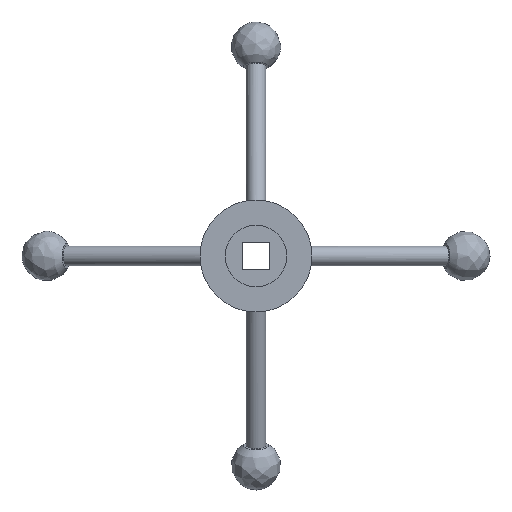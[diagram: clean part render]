
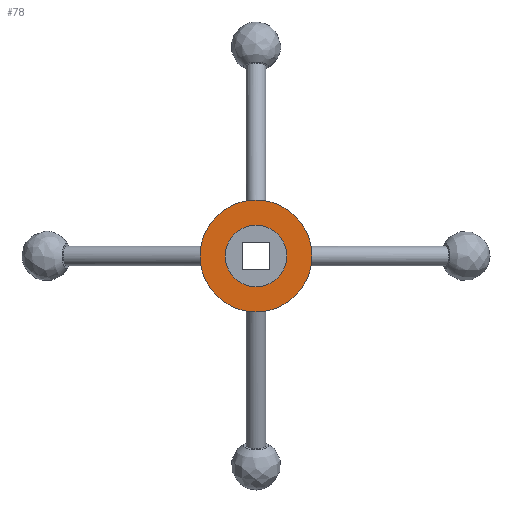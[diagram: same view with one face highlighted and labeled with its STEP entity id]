
A CAD part, front view. The second image highlights one B-rep face of the part: STEP entity #78.
In plain terms, the highlighted planar face has unit normal (0, -1, 0).
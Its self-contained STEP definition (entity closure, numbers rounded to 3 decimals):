
#78 = ADVANCED_FACE( '', ( #107, #108 ), #109, .F. );
#107 = FACE_BOUND( '', #173, .T. );
#108 = FACE_OUTER_BOUND( '', #174, .T. );
#109 = PLANE( '', #175 );
#173 = EDGE_LOOP( '', ( #384 ) );
#174 = EDGE_LOOP( '', ( #385 ) );
#175 = AXIS2_PLACEMENT_3D( '', #386, #387, #388 );
#384 = ORIENTED_EDGE( '', *, *, #489, .F. );
#385 = ORIENTED_EDGE( '', *, *, #490, .T. );
#386 = CARTESIAN_POINT( '', ( 40., 16., 0. ) );
#387 = DIRECTION( '', ( 0., 1., 0. ) );
#388 = DIRECTION( '', ( 0., 0., 1. ) );
#489 = EDGE_CURVE( '', #529, #529, #530, .T. );
#490 = EDGE_CURVE( '', #531, #531, #532, .T. );
#529 = VERTEX_POINT( '', #672 );
#530 = CIRCLE( '', #673, 22. );
#531 = VERTEX_POINT( '', #674 );
#532 = CIRCLE( '', #675, 40. );
#672 = CARTESIAN_POINT( '', ( 0., 16., -22. ) );
#673 = AXIS2_PLACEMENT_3D( '', #993, #994, #995 );
#674 = CARTESIAN_POINT( '', ( 0., 16., -40. ) );
#675 = AXIS2_PLACEMENT_3D( '', #996, #997, #998 );
#993 = CARTESIAN_POINT( '', ( 0., 16., 0. ) );
#994 = DIRECTION( '', ( 0., -1., 0. ) );
#995 = DIRECTION( '', ( 0., 0., -1. ) );
#996 = CARTESIAN_POINT( '', ( 0., 16., 0. ) );
#997 = DIRECTION( '', ( 0., -1., 0. ) );
#998 = DIRECTION( '', ( 0., 0., -1. ) );
